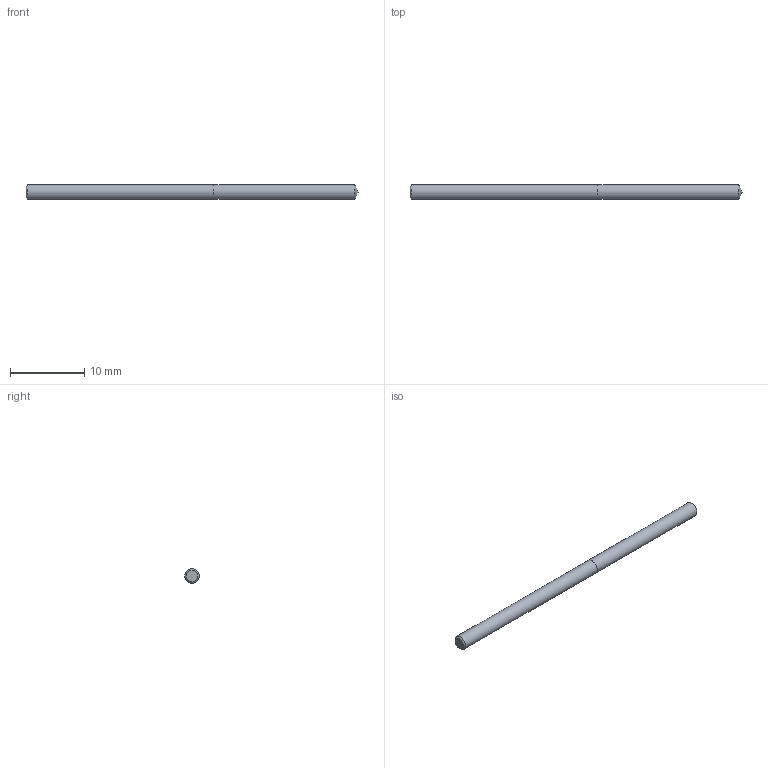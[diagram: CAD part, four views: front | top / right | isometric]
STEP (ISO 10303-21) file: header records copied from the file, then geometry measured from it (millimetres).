
FILE_DESCRIPTION (( 'STEP AP214' ), '1' );
FILE_NAME ('03-2389.STEP', '2022-06-15T23:20:40', ( 'USER' ), ( '' ), 'SwSTEP 2.0', 'SolidWorks 2018', '' );
FILE_SCHEMA (( 'AUTOMOTIVE_DESIGN' ));
Length unit declared in the file: inch
Products named in the file (1): 03-2389
Bounding box: 44.86 x 1.99 x 1.99 mm (x, y, z)
Volume: 139.1 mm3; surface area: 290.4 mm2
Topology: 2 solids, 2 shells, 7 faces, 11 edges, 7 vertices
Faces by surface type: plane 3, cylinder 2, cone 2
Full cylindrical faces by diameter (mm): 1.994 x2
Entity records: 214 total; most frequent: DIRECTION 26, CARTESIAN_POINT 18, AXIS2_PLACEMENT_3D 13, EDGE_LOOP 10, ORIENTED_EDGE 10, FACE_OUTER_BOUND 9, UNCERTAINTY_MEASURE_WITH_UNIT 7, LENGTH_MEASURE_WITH_UNIT 7
